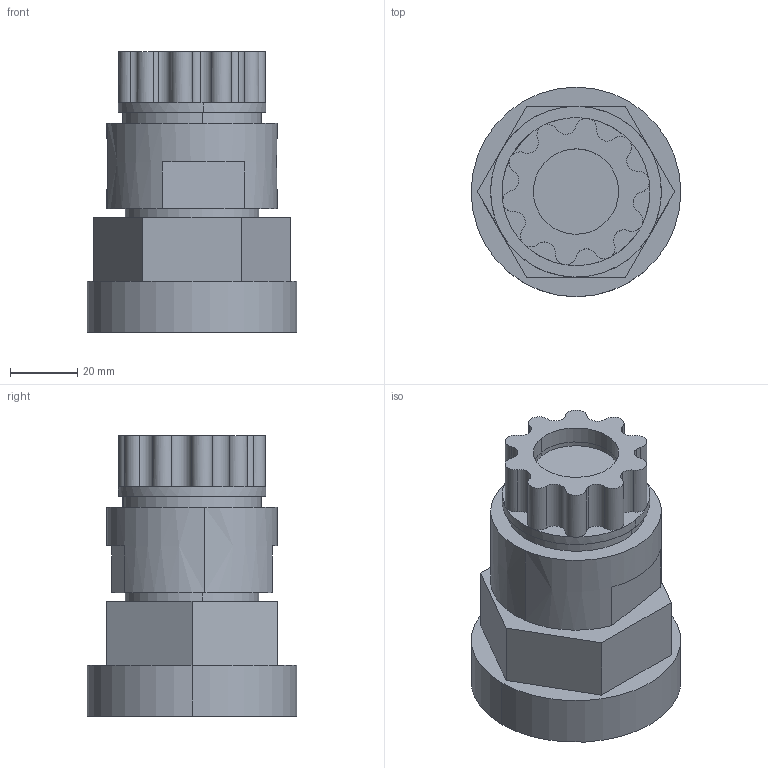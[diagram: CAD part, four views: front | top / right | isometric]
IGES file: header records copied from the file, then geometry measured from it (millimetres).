
Start section: SolidWorks IGES file using analytic representation for surfaces
Global section: file name: S:\Product Visuals\Pumps to be Defeatured\140 fittings\FITTING ASSEMBLIES\DEFEATURED\top-out\16-synchro-flare-top-out.IGS; native system: SolidWorks 2012; preprocessor: SolidWorks 2012; author: rachel.dressel; date: 121203.150154; units: inch
Bounding box: 62.33 x 62.33 x 83.43 mm (x, y, z)
Volume: 165811.2 mm3; surface area: 22565.4 mm2
Topology: 1 solids, 1 shells, 69 faces, 171 edges, 110 vertices
Faces by surface type: revolution 41, plane 28
